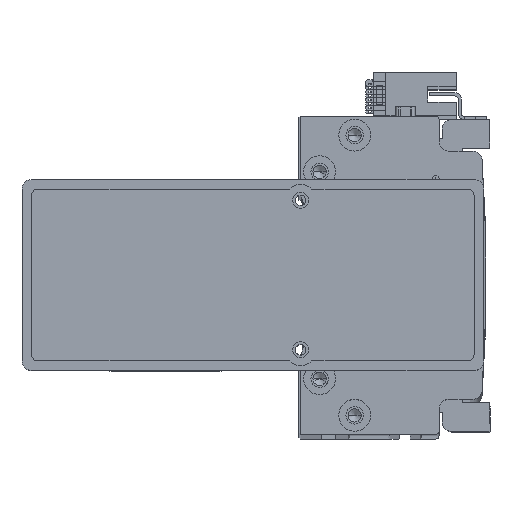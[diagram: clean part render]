
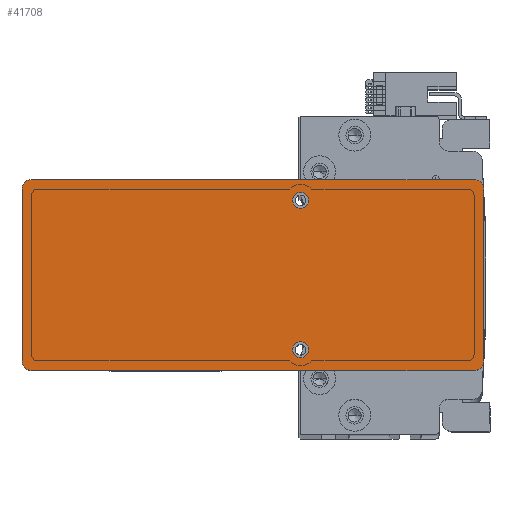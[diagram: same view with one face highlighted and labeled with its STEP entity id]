
A CAD part, top view. The second image highlights one B-rep face of the part: STEP entity #41708.
In plain terms, the highlighted planar face has unit normal (0, 0, 1) as drawn and (0, 0, -1) by its records, which use the part's own axes.
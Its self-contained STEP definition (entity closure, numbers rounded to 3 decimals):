
#207 = ORIENTED_EDGE ( 'NONE', *, *, #4878, .T. ) ;
#502 = DIRECTION ( 'NONE',  ( 0., 0., 1. ) ) ;
#649 = LINE ( 'NONE', #959, #38090 ) ;
#919 = EDGE_CURVE ( 'NONE', #27099, #36691, #20883, .T. ) ;
#959 = CARTESIAN_POINT ( 'NONE',  ( 72.5, 30., 0. ) ) ;
#1089 = DIRECTION ( 'NONE',  ( 0., 0., -1. ) ) ;
#1346 = CIRCLE ( 'NONE', #12376, 3. ) ;
#1805 = ORIENTED_EDGE ( 'NONE', *, *, #9140, .F. ) ;
#1996 = CARTESIAN_POINT ( 'NONE',  ( -69.5, 30., 0. ) ) ;
#2012 = EDGE_CURVE ( 'NONE', #47588, #17564, #649, .T. ) ;
#2604 = DIRECTION ( 'NONE',  ( 0., 1., 0. ) ) ;
#3045 = DIRECTION ( 'NONE',  ( 0., 0., -1. ) ) ;
#4079 = CIRCLE ( 'NONE', #4938, 2.5 ) ;
#4162 = LINE ( 'NONE', #21225, #24044 ) ;
#4214 = CARTESIAN_POINT ( 'NONE',  ( 15., -23.5, 0. ) ) ;
#4472 = CARTESIAN_POINT ( 'NONE',  ( 69.5, 27., 0. ) ) ;
#4708 = ORIENTED_EDGE ( 'NONE', *, *, #21265, .F. ) ;
#4838 = EDGE_CURVE ( 'NONE', #36691, #27099, #23564, .T. ) ;
#4878 = EDGE_CURVE ( 'NONE', #14607, #24626, #1346, .T. ) ;
#4902 = AXIS2_PLACEMENT_3D ( 'NONE', #4214, #30387, #7939 ) ;
#4938 = AXIS2_PLACEMENT_3D ( 'NONE', #23451, #1089, #27264 ) ;
#5860 = ORIENTED_EDGE ( 'NONE', *, *, #12419, .T. ) ;
#5916 = CARTESIAN_POINT ( 'NONE',  ( 15., -23.5, 0. ) ) ;
#6046 = DIRECTION ( 'NONE',  ( 0., -1., 0. ) ) ;
#7359 = DIRECTION ( 'NONE',  ( 0., 0., -1. ) ) ;
#7658 = CARTESIAN_POINT ( 'NONE',  ( -72.5, 27., 0. ) ) ;
#7939 = DIRECTION ( 'NONE',  ( -1., 0., 0. ) ) ;
#8192 = DIRECTION ( 'NONE',  ( 1., 0., 0. ) ) ;
#8622 = EDGE_CURVE ( 'NONE', #45933, #43312, #4079, .T. ) ;
#8846 = FACE_OUTER_BOUND ( 'NONE', #14898, .T. ) ;
#9140 = EDGE_CURVE ( 'NONE', #46410, #26120, #48439, .T. ) ;
#9522 = VECTOR ( 'NONE', #29949, 1000. ) ;
#9684 = DIRECTION ( 'NONE',  ( -1., 0., 0. ) ) ;
#11634 = EDGE_CURVE ( 'NONE', #47588, #26395, #32225, .T. ) ;
#11839 = ORIENTED_EDGE ( 'NONE', *, *, #2012, .F. ) ;
#12332 = CARTESIAN_POINT ( 'NONE',  ( 17.5, 23.5, 0. ) ) ;
#12376 = AXIS2_PLACEMENT_3D ( 'NONE', #15658, #41829, #19413 ) ;
#12419 = EDGE_CURVE ( 'NONE', #26086, #26120, #28867, .T. ) ;
#14100 = EDGE_CURVE ( 'NONE', #43312, #45933, #43838, .T. ) ;
#14607 = VERTEX_POINT ( 'NONE', #35929 ) ;
#14609 = CARTESIAN_POINT ( 'NONE',  ( 69.5, 30., 0. ) ) ;
#14768 = AXIS2_PLACEMENT_3D ( 'NONE', #4472, #30634, #8192 ) ;
#14898 = EDGE_LOOP ( 'NONE', ( #4708, #207, #46903, #5860, #1805, #15489, #11839, #33812 ) ) ;
#14936 = AXIS2_PLACEMENT_3D ( 'NONE', #25476, #3045, #29248 ) ;
#15302 = CARTESIAN_POINT ( 'NONE',  ( -69.5, -30., 0. ) ) ;
#15489 = ORIENTED_EDGE ( 'NONE', *, *, #39243, .T. ) ;
#15658 = CARTESIAN_POINT ( 'NONE',  ( 69.5, -27., 0. ) ) ;
#16027 = ORIENTED_EDGE ( 'NONE', *, *, #4838, .F. ) ;
#17564 = VERTEX_POINT ( 'NONE', #1996 ) ;
#19413 = DIRECTION ( 'NONE',  ( 1., 0., 0. ) ) ;
#19499 = LINE ( 'NONE', #44842, #9522 ) ;
#19775 = VECTOR ( 'NONE', #6046, 1000. ) ;
#20125 = EDGE_LOOP ( 'NONE', ( #32613, #40817 ) ) ;
#20181 = AXIS2_PLACEMENT_3D ( 'NONE', #21758, #47959, #25565 ) ;
#20883 = CIRCLE ( 'NONE', #39178, 2.5 ) ;
#20915 = EDGE_LOOP ( 'NONE', ( #16027, #22678 ) ) ;
#21225 = CARTESIAN_POINT ( 'NONE',  ( 72.5, -30., 0. ) ) ;
#21265 = EDGE_CURVE ( 'NONE', #14607, #26395, #4162, .T. ) ;
#21758 = CARTESIAN_POINT ( 'NONE',  ( -69.5, -27., 0. ) ) ;
#22678 = ORIENTED_EDGE ( 'NONE', *, *, #919, .F. ) ;
#22851 = CARTESIAN_POINT ( 'NONE',  ( 0., 0., 0. ) ) ;
#23451 = CARTESIAN_POINT ( 'NONE',  ( 15., 23.5, 0. ) ) ;
#23564 = CIRCLE ( 'NONE', #4902, 2.5 ) ;
#24044 = VECTOR ( 'NONE', #2604, 1000. ) ;
#24626 = VERTEX_POINT ( 'NONE', #25285 ) ;
#25285 = CARTESIAN_POINT ( 'NONE',  ( 69.5, -30., 0. ) ) ;
#25476 = CARTESIAN_POINT ( 'NONE',  ( 15., 23.5, 0. ) ) ;
#25565 = DIRECTION ( 'NONE',  ( 1., 0., 0. ) ) ;
#25727 = CARTESIAN_POINT ( 'NONE',  ( 12.5, -23.5, 0. ) ) ;
#26086 = VERTEX_POINT ( 'NONE', #15302 ) ;
#26120 = VERTEX_POINT ( 'NONE', #34172 ) ;
#26395 = VERTEX_POINT ( 'NONE', #28414 ) ;
#26466 = PLANE ( 'NONE',  #48015 ) ;
#26647 = DIRECTION ( 'NONE',  ( 1., 0., 0. ) ) ;
#27099 = VERTEX_POINT ( 'NONE', #44343 ) ;
#27264 = DIRECTION ( 'NONE',  ( -1., 0., 0. ) ) ;
#27638 = FACE_BOUND ( 'NONE', #20915, .T. ) ;
#28414 = CARTESIAN_POINT ( 'NONE',  ( 72.5, 27., 0. ) ) ;
#28514 = CARTESIAN_POINT ( 'NONE',  ( -72.5, -30., 0. ) ) ;
#28867 = CIRCLE ( 'NONE', #20181, 3. ) ;
#29248 = DIRECTION ( 'NONE',  ( -1., 0., 0. ) ) ;
#29820 = CARTESIAN_POINT ( 'NONE',  ( -69.5, 27., 0. ) ) ;
#29949 = DIRECTION ( 'NONE',  ( 1., 0., 0. ) ) ;
#30387 = DIRECTION ( 'NONE',  ( 0., 0., -1. ) ) ;
#30634 = DIRECTION ( 'NONE',  ( 0., 0., -1. ) ) ;
#32116 = DIRECTION ( 'NONE',  ( 0., 0., -1. ) ) ;
#32225 = CIRCLE ( 'NONE', #14768, 3. ) ;
#32613 = ORIENTED_EDGE ( 'NONE', *, *, #14100, .F. ) ;
#32738 = AXIS2_PLACEMENT_3D ( 'NONE', #29820, #7359, #33588 ) ;
#32810 = EDGE_CURVE ( 'NONE', #26086, #24626, #19499, .T. ) ;
#33588 = DIRECTION ( 'NONE',  ( 1., 0., 0. ) ) ;
#33812 = ORIENTED_EDGE ( 'NONE', *, *, #11634, .T. ) ;
#34172 = CARTESIAN_POINT ( 'NONE',  ( -72.5, -27., 0. ) ) ;
#35929 = CARTESIAN_POINT ( 'NONE',  ( 72.5, -27., 0. ) ) ;
#36691 = VERTEX_POINT ( 'NONE', #25727 ) ;
#38090 = VECTOR ( 'NONE', #41989, 1000. ) ;
#39104 = CARTESIAN_POINT ( 'NONE',  ( 12.5, 23.5, 0. ) ) ;
#39178 = AXIS2_PLACEMENT_3D ( 'NONE', #5916, #32116, #9684 ) ;
#39243 = EDGE_CURVE ( 'NONE', #46410, #17564, #40276, .T. ) ;
#40276 = CIRCLE ( 'NONE', #32738, 3. ) ;
#40817 = ORIENTED_EDGE ( 'NONE', *, *, #8622, .F. ) ;
#41708 = ADVANCED_FACE ( 'NONE', ( #47521, #27638, #8846 ), #26466, .F. ) ;
#41829 = DIRECTION ( 'NONE',  ( 0., 0., -1. ) ) ;
#41989 = DIRECTION ( 'NONE',  ( -1., 0., 0. ) ) ;
#43312 = VERTEX_POINT ( 'NONE', #39104 ) ;
#43838 = CIRCLE ( 'NONE', #14936, 2.5 ) ;
#44343 = CARTESIAN_POINT ( 'NONE',  ( 17.5, -23.5, 0. ) ) ;
#44842 = CARTESIAN_POINT ( 'NONE',  ( 72.5, -30., 0. ) ) ;
#45933 = VERTEX_POINT ( 'NONE', #12332 ) ;
#46410 = VERTEX_POINT ( 'NONE', #7658 ) ;
#46903 = ORIENTED_EDGE ( 'NONE', *, *, #32810, .F. ) ;
#47521 = FACE_BOUND ( 'NONE', #20125, .T. ) ;
#47588 = VERTEX_POINT ( 'NONE', #14609 ) ;
#47959 = DIRECTION ( 'NONE',  ( 0., 0., -1. ) ) ;
#48015 = AXIS2_PLACEMENT_3D ( 'NONE', #22851, #502, #26647 ) ;
#48439 = LINE ( 'NONE', #28514, #19775 ) ;
